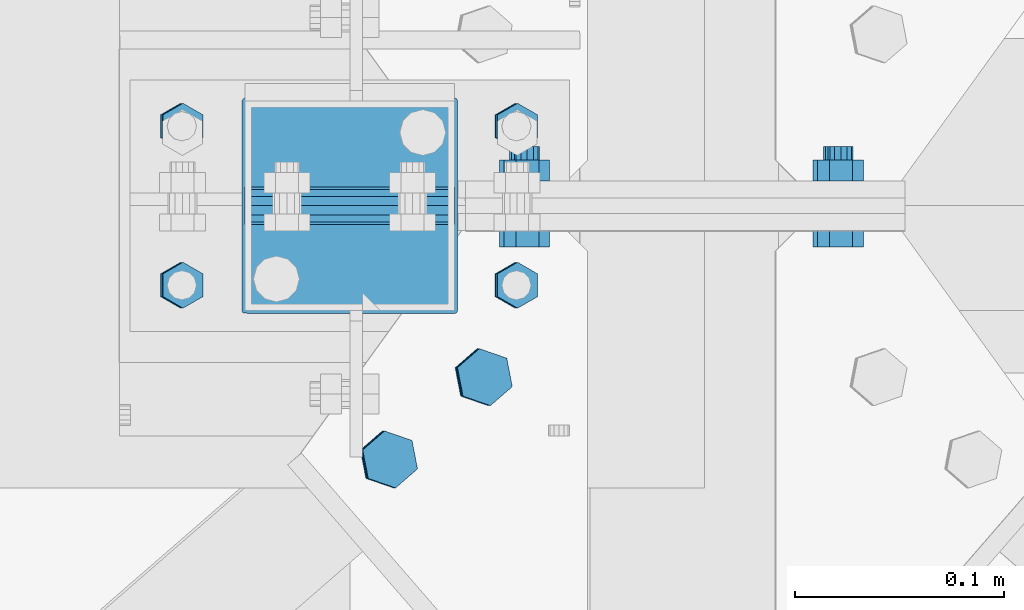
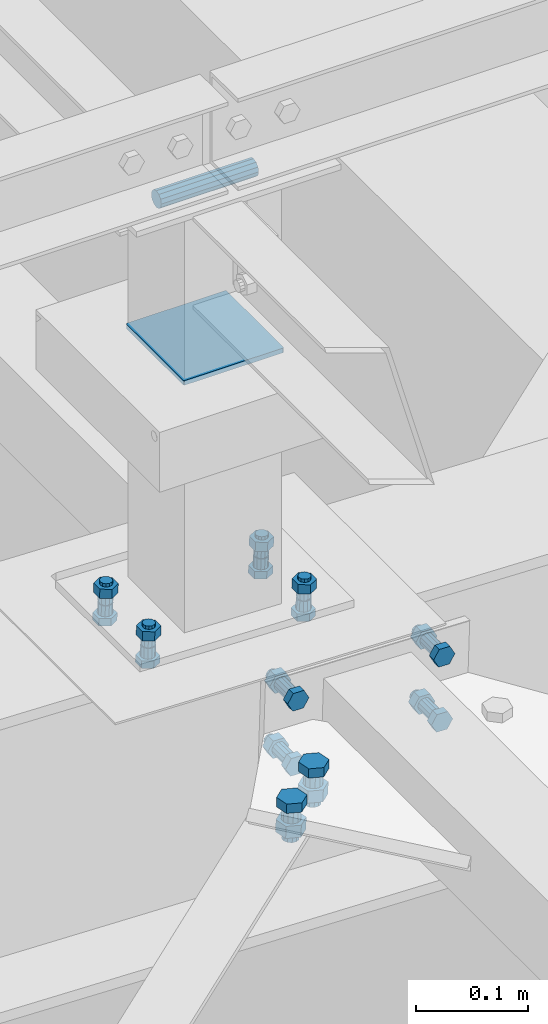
# One storey, part 243 of 3134: 5 mechanical fasteners, 3 elements without a shape of their own.
"""IFC2X3 building model written with IfcOpenShell, lengths in millimetres."""

from ifc_helpers import new_model, si_unit, frame, origin_with_axes, place, context, subcontext, project, spatial, faceted_brep, source, transform, mapped, material, type_object, element, aggregate, save


model = new_model("IFC2X3")

# Units and contexts
model_context = context("Model", 3, precision=1e-05, world=origin_with_axes())
body_context = subcontext(model_context, "Body", "Model", "MODEL_VIEW")
ifc_project = project(units=[si_unit("LENGTHUNIT", "METRE", prefix="MILLI"), si_unit("AREAUNIT", "SQUARE_METRE"), si_unit("VOLUMEUNIT", "CUBIC_METRE"), si_unit("MASSUNIT", "GRAM", prefix="KILO"), si_unit("TIMEUNIT", "SECOND"), si_unit("PLANEANGLEUNIT", "RADIAN"), si_unit("SOLIDANGLEUNIT", "STERADIAN"), si_unit("THERMODYNAMICTEMPERATUREUNIT", "DEGREE_CELSIUS"), si_unit("LUMINOUSINTENSITYUNIT", "LUMEN")], contexts=[model_context])

# Site, building, storey
site_placement = place(None, origin_with_axes())
site = spatial("IfcSite", under=ifc_project, at=site_placement, CompositionType="ELEMENT")
building_placement = place(site_placement, origin_with_axes())
building = spatial("IfcBuilding", under=site, at=building_placement, Name="Undefined", CompositionType="ELEMENT")
storey_placement = place(building_placement, origin_with_axes())
storey = spatial("IfcBuildingStorey", under=building, at=storey_placement, Name="Undefined", CompositionType="ELEMENT", Elevation=0.0)

# Assembly, mechanical fasteners
assembly_1_placement = place(storey_placement, origin_with_axes())
assembly_1 = element("IfcElementAssembly", 1, at=assembly_1_placement, inside=storey, AssemblyPlace="NOTDEFINED", PredefinedType="RIGID_FRAME")
ifc_material_1 = material(Name="8.8")
mechanical_fastener_type = type_object("IfcMechanicalFastenerType", Name="Bolt assembly")
shared_shape_1 = source(origin_with_axes(), body_context, "Body", "Brep", [
    faceted_brep([(9.0, -50.0, 0.0), (7.79422863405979, -50.0, 4.50000000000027), (4.49999999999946, -50.0, 7.79422863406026), (-9.3270238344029e-13, -50.0, 9.0), (-4.50000000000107, -50.0, 7.79422863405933), (-7.79422863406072, -50.0, 4.49999999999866), (-9.0, -50.0, -1.86540476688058e-12), (-7.79422863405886, -50.0, -4.50000000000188), (-4.49999999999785, -50.0, -7.79422863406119), (2.78811514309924e-12, -50.0, -9.0), (4.50000000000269, -50.0, -7.7942286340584), (7.79422863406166, -50.0, -4.49999999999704), (7.79422863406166, 50.1, -4.49999999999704), (4.50000000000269, 50.1, -7.7942286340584), (2.78811514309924e-12, 50.1, -9.0), (-4.49999999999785, 50.1, -7.79422863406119), (-7.79422863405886, 50.1, -4.50000000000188), (-9.0, 50.1, -1.86540476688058e-12), (-7.79422863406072, 50.1, 4.49999999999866), (-4.50000000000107, 50.1, 7.79422863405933), (-9.3270238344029e-13, 50.1, 9.0), (4.49999999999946, 50.1, 7.79422863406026), (7.79422863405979, 50.1, 4.50000000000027), (9.0, 50.1, 0.0)], [[[0, 1, 2, 3, 4, 5, 6, 7, 8, 9, 10, 11]], [[12, 13, 14, 15, 16, 17, 18, 19, 20, 21, 22, 23]], [[0, 23, 22, 1]], [[1, 22, 21, 2]], [[2, 21, 20, 3]], [[3, 20, 19, 4]], [[4, 19, 18, 5]], [[5, 18, 17, 6]], [[6, 17, 16, 7]], [[7, 16, 15, 8]], [[8, 15, 14, 9]], [[9, 14, 13, 10]], [[10, 13, 12, 11]], [[11, 12, 23, 0]]]),
])
mechanical_fastener_1_placement = place(assembly_1_placement, frame((26019.0, 60985.0, 10845.0), z_axis=(0.0, 1.0, 0.0), x_axis=(0.0, 0.0, 1.0)))
mechanical_fastener_1 = element("IfcMechanicalFastener", 2, at=mechanical_fastener_1_placement, type_object=mechanical_fastener_type, material=ifc_material_1, Name="Bolt assembly", NominalDiameter=16.0, NominalLength=100.0, context=body_context, shape_type="MappedRepresentation", body=[
    mapped(shared_shape_1, transform((0.0, 0.0, 0.0))),
])
ifc_material_2 = material(Name="6.8")
shared_shape_2 = source(origin_with_axes(), body_context, "Body", "Brep", [
    faceted_brep([(51.5, 1.36424205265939e-12, 50.0), (51.3858192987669, 1.36424205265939e-12, 50.5740251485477), (51.0606601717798, 1.36424205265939e-12, 51.0606601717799), (50.5740251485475, 1.36424205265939e-12, 51.385819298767), (-50.0000000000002, 1.36424205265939e-12, 51.5), (-50.7500000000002, 1.36424205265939e-12, 51.2990381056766), (-51.2990381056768, 1.36424205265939e-12, 50.7499999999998), (-51.5, 1.36424205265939e-12, 49.9999999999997), (-51.5, 1.36424205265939e-12, -50.0000000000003), (-51.2990381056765, 1.36424205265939e-12, -50.7500000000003), (-50.7499999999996, 1.36424205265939e-12, -51.2990381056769), (-49.9999999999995, 1.36424205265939e-12, -51.5), (50.0000000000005, 1.36424205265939e-12, -51.5), (50.7500000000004, 1.36424205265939e-12, -51.2990381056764), (51.2990381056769, 1.36424205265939e-12, -50.7499999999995), (51.5, 1.36424205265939e-12, -49.9999999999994), (51.5, 5.10000000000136, -49.9999999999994), (51.2990381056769, 5.10000000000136, -50.7499999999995), (50.7500000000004, 5.10000000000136, -51.2990381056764), (50.0000000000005, 5.10000000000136, -51.5), (-49.9999999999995, 5.10000000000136, -51.5), (-50.7499999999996, 5.10000000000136, -51.2990381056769), (-51.2990381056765, 5.10000000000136, -50.7500000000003), (-51.5, 5.10000000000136, -50.0000000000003), (-51.5, 5.10000000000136, 49.9999999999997), (-51.2990381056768, 5.10000000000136, 50.7499999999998), (-50.7500000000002, 5.10000000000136, 51.2990381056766), (-50.0000000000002, 5.10000000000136, 51.5), (50.5740251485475, 5.10000000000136, 51.385819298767), (51.0606601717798, 5.10000000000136, 51.0606601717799), (51.3858192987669, 5.10000000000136, 50.5740251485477), (51.5, 5.10000000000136, 50.0)], [[[0, 1, 2, 3, 4, 5, 6, 7, 8, 9, 10, 11, 12, 13, 14, 15]], [[16, 17, 18, 19, 20, 21, 22, 23, 24, 25, 26, 27, 28, 29, 30, 31]], [[0, 31, 30, 1]], [[1, 30, 29, 2]], [[2, 29, 28, 3]], [[3, 28, 27, 4]], [[4, 27, 26, 5]], [[5, 26, 25, 6]], [[6, 25, 24, 7]], [[7, 24, 23, 8]], [[8, 23, 22, 9]], [[9, 22, 21, 10]], [[10, 21, 20, 11]], [[11, 20, 19, 12]], [[12, 19, 18, 13]], [[13, 18, 17, 14]], [[14, 17, 16, 15]], [[15, 16, 31, 0]]]),
])
mechanical_fastener_2_placement = place(assembly_1_placement, frame((26019.0, 60985.0, 10679.21), z_axis=(0.0, -1.0, 0.0), x_axis=(-1.0, 0.0, 0.0)))
mechanical_fastener_2 = element("IfcMechanicalFastener", 3, at=mechanical_fastener_2_placement, type_object=mechanical_fastener_type, material=ifc_material_2, Name="Bolt assembly", NominalDiameter=10.0, NominalLength=5.0, context=body_context, shape_type="MappedRepresentation", body=[
    mapped(shared_shape_2, transform((0.0, 0.0, 0.0))),
])
aggregate(assembly_1, [mechanical_fastener_1, mechanical_fastener_2])

assembly_2_placement = place(storey_placement, origin_with_axes())
assembly_2 = element("IfcElementAssembly", 4, at=assembly_2_placement, inside=storey, AssemblyPlace="NOTDEFINED", PredefinedType="RIGID_FRAME")
shared_shape_3 = source(origin_with_axes(), body_context, "Body", "Brep", [
    faceted_brep([(13.856406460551, -14.0, 0.0), (6.92820323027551, -14.0, 12.0), (-6.92820323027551, -14.0, 12.0), (-13.856406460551, -14.0, 1.69692038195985e-15), (-6.92820323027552, -14.0, -12.0), (6.9282032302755, -14.0, -12.0), (6.9282032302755, -4.00000145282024, -12.0), (-6.92820323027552, -4.00000145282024, -12.0), (-13.856406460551, -4.00000145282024, 1.69692038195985e-15), (-6.92820323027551, -4.00000145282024, 12.0), (6.92820323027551, -4.00000145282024, 12.0), (13.856406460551, -4.00000145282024, 0.0), (8.0, -4.00000145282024, 0.0), (6.92820323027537, -4.00000145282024, 4.00000000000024), (3.99999999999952, -4.00000145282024, 6.92820323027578), (-8.29068785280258e-13, -4.00000145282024, 8.0), (-4.00000000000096, -4.00000145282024, 6.92820323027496), (-6.9282032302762, -4.00000145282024, 3.99999999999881), (-8.0, -4.00000145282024, -1.65813757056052e-12), (-6.92820323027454, -4.00000145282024, -4.00000000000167), (-3.99999999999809, -4.00000145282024, -6.92820323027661), (2.47832457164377e-12, -4.00000145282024, -8.0), (4.00000000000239, -4.00000145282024, -6.92820323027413), (6.92820323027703, -4.00000145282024, -3.99999999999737), (6.92820323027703, 31.0, -3.99999999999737), (4.00000000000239, 31.0, -6.92820323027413), (2.47832457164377e-12, 31.0, -8.0), (-3.99999999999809, 31.0, -6.92820323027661), (-6.92820323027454, 31.0, -4.00000000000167), (-8.0, 31.0, -1.65813757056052e-12), (-6.9282032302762, 31.0, 3.99999999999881), (-4.00000000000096, 31.0, 6.92820323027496), (-8.29068785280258e-13, 31.0, 8.0), (3.99999999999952, 31.0, 6.92820323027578), (6.92820323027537, 31.0, 4.00000000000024), (8.0, 31.0, 0.0), (13.856406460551, 9.99962794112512, 0.0), (6.92820323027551, 9.99962794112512, 12.0), (-6.92820323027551, 9.99962794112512, 12.0), (-13.856406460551, 9.99962794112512, 1.69692038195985e-15), (-6.92820323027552, 9.99962794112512, -12.0), (6.9282032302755, 9.99962794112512, -12.0), (6.9282032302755, 22.9996279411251, -12.0), (-6.92820323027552, 22.9996279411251, -12.0), (-13.856406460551, 22.9996279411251, 1.69692038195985e-15), (-6.92820323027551, 22.9996279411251, 12.0), (6.92820323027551, 22.9996279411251, 12.0), (13.856406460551, 22.9996279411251, 0.0)], [[[0, 1, 2, 3, 4, 5]], [[6, 7, 8, 9, 10, 11]], [[0, 11, 10, 1]], [[1, 10, 9, 2]], [[2, 9, 8, 3]], [[3, 8, 7, 4]], [[4, 7, 6, 5]], [[5, 6, 11, 0]], [[12, 13, 14, 15, 16, 17, 18, 19, 20, 21, 22, 23]], [[24, 25, 26, 27, 28, 29, 30, 31, 32, 33, 34, 35]], [[12, 35, 34, 13]], [[13, 34, 33, 14]], [[14, 33, 32, 15]], [[15, 32, 31, 16]], [[16, 31, 30, 17]], [[17, 30, 29, 18]], [[18, 29, 28, 19]], [[19, 28, 27, 20]], [[20, 27, 26, 21]], [[21, 26, 25, 22]], [[22, 25, 24, 23]], [[23, 24, 35, 12]], [[36, 37, 38, 39, 40, 41]], [[42, 43, 44, 45, 46, 47]], [[36, 47, 46, 37]], [[37, 46, 45, 38]], [[38, 45, 44, 39]], [[39, 44, 43, 40]], [[40, 43, 42, 41]], [[41, 42, 47, 36]]]),
    faceted_brep([(9.0, 3.89962794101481, 0.0), (7.79422863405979, 3.89962794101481, 4.50000000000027), (4.49999999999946, 3.89962794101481, 7.79422863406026), (-9.3270238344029e-13, 3.89962794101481, 9.0), (-4.50000000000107, 3.89962794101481, 7.79422863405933), (-7.79422863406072, 3.89962794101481, 4.49999999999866), (-9.0, 3.89962794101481, -1.86540476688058e-12), (-7.79422863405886, 3.89962794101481, -4.50000000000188), (-4.49999999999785, 3.89962794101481, -7.79422863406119), (2.78811514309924e-12, 3.89962794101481, -9.0), (4.50000000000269, 3.89962794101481, -7.7942286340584), (7.79422863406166, 3.89962794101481, -4.49999999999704), (7.79422863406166, 9.99962794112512, -4.49999999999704), (4.50000000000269, 9.99962794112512, -7.7942286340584), (2.78811514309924e-12, 9.99962794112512, -9.0), (-4.49999999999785, 9.99962794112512, -7.79422863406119), (-7.79422863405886, 9.99962794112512, -4.50000000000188), (-9.0, 9.99962794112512, -1.86540476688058e-12), (-7.79422863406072, 9.99962794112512, 4.49999999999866), (-4.50000000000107, 9.99962794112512, 7.79422863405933), (-9.3270238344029e-13, 9.99962794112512, 9.0), (4.49999999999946, 9.99962794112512, 7.79422863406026), (7.79422863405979, 9.99962794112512, 4.50000000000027), (9.0, 9.99962794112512, 0.0), (9.0, -3.9, 0.0), (7.79422863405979, -3.9, 4.50000000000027), (4.49999999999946, -3.9, 7.79422863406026), (-9.3270238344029e-13, -3.9, 9.0), (-4.50000000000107, -3.9, 7.79422863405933), (-7.79422863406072, -3.9, 4.49999999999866), (-9.0, -3.9, -1.86540476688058e-12), (-7.79422863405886, -3.9, -4.50000000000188), (-4.49999999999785, -3.9, -7.79422863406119), (2.78811514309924e-12, -3.9, -9.0), (4.50000000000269, -3.9, -7.7942286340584), (7.79422863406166, -3.9, -4.49999999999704), (7.79422863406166, 4.09999854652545, -4.49999999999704), (4.50000000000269, 4.09999854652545, -7.7942286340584), (2.78811514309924e-12, 4.09999854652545, -9.0), (-4.49999999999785, 4.09999854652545, -7.79422863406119), (-7.79422863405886, 4.09999854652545, -4.50000000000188), (-9.0, 4.09999854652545, -1.86540476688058e-12), (-7.79422863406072, 4.09999854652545, 4.49999999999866), (-4.50000000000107, 4.09999854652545, 7.79422863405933), (-9.3270238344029e-13, 4.09999854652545, 9.0), (4.49999999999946, 4.09999854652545, 7.79422863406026), (7.79422863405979, 4.09999854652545, 4.50000000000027), (9.0, 4.09999854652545, 0.0)], [[[0, 1, 2, 3, 4, 5, 6, 7, 8, 9, 10, 11]], [[12, 13, 14, 15, 16, 17, 18, 19, 20, 21, 22, 23]], [[0, 23, 22, 1]], [[1, 22, 21, 2]], [[2, 21, 20, 3]], [[3, 20, 19, 4]], [[4, 19, 18, 5]], [[5, 18, 17, 6]], [[6, 17, 16, 7]], [[7, 16, 15, 8]], [[8, 15, 14, 9]], [[9, 14, 13, 10]], [[10, 13, 12, 11]], [[11, 12, 23, 0]], [[24, 25, 26, 27, 28, 29, 30, 31, 32, 33, 34, 35]], [[36, 37, 38, 39, 40, 41, 42, 43, 44, 45, 46, 47]], [[24, 47, 46, 25]], [[25, 46, 45, 26]], [[26, 45, 44, 27]], [[27, 44, 43, 28]], [[28, 43, 42, 29]], [[29, 42, 41, 30]], [[30, 41, 40, 31]], [[31, 40, 39, 32]], [[32, 39, 38, 33]], [[33, 38, 37, 34]], [[34, 37, 36, 35]], [[35, 36, 47, 24]]]),
])
mechanical_fastener_3_placement = place(assembly_2_placement, frame((26083.1409918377, 60903.0600296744, 10230.4557677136), z_axis=(0.655203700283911, -0.755179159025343, -0.0203113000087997), x_axis=(-0.754816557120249, -0.65551844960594, 0.0233993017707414)))
mechanical_fastener_3 = element("IfcMechanicalFastener", 5, at=mechanical_fastener_3_placement, type_object=mechanical_fastener_type, material=ifc_material_1, Name="Bolt assembly", NominalDiameter=16.0, NominalLength=35.0, context=body_context, shape_type="MappedRepresentation", body=[
    mapped(shared_shape_3, transform((0.0, 0.0, 0.0))),
    mapped(shared_shape_3, transform((59.9999999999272, 0.0, 5.40239852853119e-10))),
])
shared_shape_4 = source(origin_with_axes(), body_context, "Body", "Brep", [
    faceted_brep([(10.9696551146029, -19.75, 0.0), (5.48482755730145, -19.75, 9.5), (-5.48482755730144, -19.75, 9.5), (-10.9696551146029, -19.75, 1.34339530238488e-15), (-5.48482755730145, -19.75, -9.5), (5.48482755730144, -19.75, -9.50000000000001), (5.48482755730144, -11.75, -9.50000000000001), (-5.48482755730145, -11.75, -9.5), (-10.9696551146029, -11.75, 1.34339530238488e-15), (-5.48482755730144, -11.75, 9.5), (5.48482755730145, -11.75, 9.5), (10.9696551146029, -11.75, 0.0), (6.0, -11.75, 0.0), (5.19615242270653, -11.75, 3.00000000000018), (2.99999999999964, -11.75, 5.19615242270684), (-6.21801588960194e-13, -11.75, 6.0), (-3.00000000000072, -11.75, 5.19615242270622), (-5.19615242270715, -11.75, 2.9999999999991), (-6.0, -11.75, -1.24360317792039e-12), (-5.19615242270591, -11.75, -3.00000000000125), (-2.99999999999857, -11.75, -5.19615242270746), (1.85874342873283e-12, -11.75, -6.0), (3.00000000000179, -11.75, -5.1961524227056), (5.19615242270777, -11.75, -2.99999999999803), (5.19615242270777, 28.25, -2.99999999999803), (3.00000000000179, 28.25, -5.1961524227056), (1.85874342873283e-12, 28.25, -6.0), (-2.99999999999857, 28.25, -5.19615242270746), (-5.19615242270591, 28.25, -3.00000000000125), (-6.0, 28.25, -1.24360317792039e-12), (-5.19615242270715, 28.25, 2.9999999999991), (-3.00000000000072, 28.25, 5.19615242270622), (-6.21801588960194e-13, 28.25, 6.0), (2.99999999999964, 28.25, 5.19615242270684), (5.19615242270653, 28.25, 3.00000000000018), (6.0, 28.25, 0.0), (10.9696551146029, 11.75, 0.0), (5.48482755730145, 11.75, 9.5), (-5.48482755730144, 11.75, 9.5), (-10.9696551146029, 11.75, 1.34339530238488e-15), (-5.48482755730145, 11.75, -9.5), (5.48482755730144, 11.75, -9.50000000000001), (5.48482755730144, 21.75, -9.50000000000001), (-5.48482755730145, 21.75, -9.5), (-10.9696551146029, 21.75, 1.34339530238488e-15), (-5.48482755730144, 21.75, 9.5), (5.48482755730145, 21.75, 9.5), (10.9696551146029, 21.75, 0.0)], [[[0, 1, 2, 3, 4, 5]], [[6, 7, 8, 9, 10, 11]], [[0, 11, 10, 1]], [[1, 10, 9, 2]], [[2, 9, 8, 3]], [[3, 8, 7, 4]], [[4, 7, 6, 5]], [[5, 6, 11, 0]], [[12, 13, 14, 15, 16, 17, 18, 19, 20, 21, 22, 23]], [[24, 25, 26, 27, 28, 29, 30, 31, 32, 33, 34, 35]], [[12, 35, 34, 13]], [[13, 34, 33, 14]], [[14, 33, 32, 15]], [[15, 32, 31, 16]], [[16, 31, 30, 17]], [[17, 30, 29, 18]], [[18, 29, 28, 19]], [[19, 28, 27, 20]], [[20, 27, 26, 21]], [[21, 26, 25, 22]], [[22, 25, 24, 23]], [[23, 24, 35, 12]], [[36, 37, 38, 39, 40, 41]], [[42, 43, 44, 45, 46, 47]], [[36, 47, 46, 37]], [[37, 46, 45, 38]], [[38, 45, 44, 39]], [[39, 44, 43, 40]], [[40, 43, 42, 41]], [[41, 42, 47, 36]]]),
    faceted_brep([(7.0, -3.75, 0.0), (6.06217782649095, -3.75, 3.50000000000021), (3.49999999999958, -3.75, 6.06217782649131), (-7.25435187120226e-13, -3.75, 7.0), (-3.50000000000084, -3.75, 6.06217782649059), (-6.06217782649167, -3.75, 3.49999999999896), (-7.0, -3.75, -1.45087037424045e-12), (-6.06217782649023, -3.75, -3.50000000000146), (-3.49999999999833, -3.75, -6.06217782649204), (2.1685340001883e-12, -3.75, -7.0), (3.50000000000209, -3.75, -6.06217782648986), (6.0621778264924, -3.75, -3.4999999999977), (6.0621778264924, 3.75, -3.4999999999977), (3.50000000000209, 3.75, -6.06217782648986), (2.1685340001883e-12, 3.75, -7.0), (-3.49999999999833, 3.75, -6.06217782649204), (-6.06217782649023, 3.75, -3.50000000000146), (-7.0, 3.75, -1.45087037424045e-12), (-6.06217782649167, 3.75, 3.49999999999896), (-3.50000000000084, 3.75, 6.06217782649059), (-7.25435187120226e-13, 3.75, 7.0), (3.49999999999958, 3.75, 6.06217782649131), (6.06217782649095, 3.75, 3.50000000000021), (7.0, 3.75, 0.0), (7.0, -11.65, 0.0), (6.06217782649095, -11.65, 3.50000000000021), (3.49999999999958, -11.65, 6.06217782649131), (-7.25435187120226e-13, -11.65, 7.0), (-3.50000000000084, -11.65, 6.06217782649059), (-6.06217782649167, -11.65, 3.49999999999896), (-7.0, -11.65, -1.45087037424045e-12), (-6.06217782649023, -11.65, -3.50000000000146), (-3.49999999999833, -11.65, -6.06217782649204), (2.1685340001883e-12, -11.65, -7.0), (3.50000000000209, -11.65, -6.06217782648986), (6.0621778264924, -11.65, -3.4999999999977), (6.0621778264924, -3.65, -3.4999999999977), (3.50000000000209, -3.65, -6.06217782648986), (2.1685340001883e-12, -3.65, -7.0), (-3.49999999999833, -3.65, -6.06217782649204), (-6.06217782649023, -3.65, -3.50000000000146), (-7.0, -3.65, -1.45087037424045e-12), (-6.06217782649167, -3.65, 3.49999999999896), (-3.50000000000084, -3.65, 6.06217782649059), (-7.25435187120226e-13, -3.65, 7.0), (3.49999999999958, -3.65, 6.06217782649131), (6.06217782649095, -3.65, 3.50000000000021), (7.0, -3.65, 0.0), (7.0, 3.65000002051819, 0.0), (6.06217782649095, 3.65000002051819, 3.50000000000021), (3.49999999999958, 3.65000002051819, 6.06217782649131), (-7.25435187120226e-13, 3.65000002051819, 7.0), (-3.50000000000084, 3.65000002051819, 6.06217782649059), (-6.06217782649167, 3.65000002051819, 3.49999999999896), (-7.0, 3.65000002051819, -1.45087037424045e-12), (-6.06217782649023, 3.65000002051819, -3.50000000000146), (-3.49999999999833, 3.65000002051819, -6.06217782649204), (2.1685340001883e-12, 3.65000002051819, -7.0), (3.50000000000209, 3.65000002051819, -6.06217782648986), (6.0621778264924, 3.65000002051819, -3.4999999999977), (6.0621778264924, 11.75, -3.4999999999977), (3.50000000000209, 11.75, -6.06217782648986), (2.1685340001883e-12, 11.75, -7.0), (-3.49999999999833, 11.75, -6.06217782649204), (-6.06217782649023, 11.75, -3.50000000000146), (-7.0, 11.75, -1.45087037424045e-12), (-6.06217782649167, 11.75, 3.49999999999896), (-3.50000000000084, 11.75, 6.06217782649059), (-7.25435187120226e-13, 11.75, 7.0), (3.49999999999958, 11.75, 6.06217782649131), (6.06217782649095, 11.75, 3.50000000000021), (7.0, 11.75, 0.0)], [[[0, 1, 2, 3, 4, 5, 6, 7, 8, 9, 10, 11]], [[12, 13, 14, 15, 16, 17, 18, 19, 20, 21, 22, 23]], [[0, 23, 22, 1]], [[1, 22, 21, 2]], [[2, 21, 20, 3]], [[3, 20, 19, 4]], [[4, 19, 18, 5]], [[5, 18, 17, 6]], [[6, 17, 16, 7]], [[7, 16, 15, 8]], [[8, 15, 14, 9]], [[9, 14, 13, 10]], [[10, 13, 12, 11]], [[11, 12, 23, 0]], [[24, 25, 26, 27, 28, 29, 30, 31, 32, 33, 34, 35]], [[36, 37, 38, 39, 40, 41, 42, 43, 44, 45, 46, 47]], [[24, 47, 46, 25]], [[25, 46, 45, 26]], [[26, 45, 44, 27]], [[27, 44, 43, 28]], [[28, 43, 42, 29]], [[29, 42, 41, 30]], [[30, 41, 40, 31]], [[31, 40, 39, 32]], [[32, 39, 38, 33]], [[33, 38, 37, 34]], [[34, 37, 36, 35]], [[35, 36, 47, 24]], [[48, 49, 50, 51, 52, 53, 54, 55, 56, 57, 58, 59]], [[60, 61, 62, 63, 64, 65, 66, 67, 68, 69, 70, 71]], [[48, 71, 70, 49]], [[49, 70, 69, 50]], [[50, 69, 68, 51]], [[51, 68, 67, 52]], [[52, 67, 66, 53]], [[53, 66, 65, 54]], [[54, 65, 64, 55]], [[55, 64, 63, 56]], [[56, 63, 62, 57]], [[57, 62, 61, 58]], [[58, 61, 60, 59]], [[59, 60, 71, 48]]]),
])
mechanical_fastener_4_placement = place(assembly_2_placement, frame((26102.5292494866, 60985.0, 10229.8547317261), z_axis=(0.0309851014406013, 0.0, 0.999519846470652), x_axis=(0.999519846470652, 0.0, -0.0309851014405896)))
mechanical_fastener_4 = element("IfcMechanicalFastener", 6, at=mechanical_fastener_4_placement, type_object=mechanical_fastener_type, material=ifc_material_1, Name="Bolt assembly", NominalDiameter=12.0, NominalLength=40.0, context=body_context, shape_type="MappedRepresentation", body=[
    mapped(shared_shape_4, transform((0.0, 0.0, -35.0))),
    mapped(shared_shape_4, transform((150.000000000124, 0.0, -35.0000000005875))),
    mapped(shared_shape_4, transform((0.0, 0.0, 35.0))),
    mapped(shared_shape_4, transform((150.000000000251, 0.0, 34.9999999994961))),
])
aggregate(assembly_2, [mechanical_fastener_3, mechanical_fastener_4])

# Assembly, mechanical fastener
assembly_3_placement = place(storey_placement, origin_with_axes())
assembly_3 = element("IfcElementAssembly", 7, at=assembly_3_placement, inside=storey, Name="IPE330", AssemblyPlace="NOTDEFINED", PredefinedType="RIGID_FRAME")
shared_shape_5 = source(origin_with_axes(), body_context, "Body", "Brep", [
    faceted_brep([(10.9696551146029, -6.49779207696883, 0.0), (5.48482755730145, -6.49779207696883, 9.5), (-5.48482755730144, -6.49779207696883, 9.5), (-10.9696551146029, -6.49779207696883, 1.34339530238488e-15), (-5.48482755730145, -6.49779207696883, -9.5), (5.48482755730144, -6.49779207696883, -9.50000000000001), (5.48482755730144, 1.50220792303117, -9.50000000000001), (-5.48482755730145, 1.50220792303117, -9.5), (-10.9696551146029, 1.50220792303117, 1.34339530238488e-15), (-5.48482755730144, 1.50220792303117, 9.5), (5.48482755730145, 1.50220792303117, 9.5), (10.9696551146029, 1.50220792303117, 0.0), (6.0, 1.50220792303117, 0.0), (5.19615242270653, 1.50220792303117, 3.00000000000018), (2.99999999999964, 1.50220792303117, 5.19615242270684), (-6.21801588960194e-13, 1.50220792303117, 6.0), (-3.00000000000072, 1.50220792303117, 5.19615242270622), (-5.19615242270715, 1.50220792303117, 2.9999999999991), (-6.0, 1.50220792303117, -1.24360317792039e-12), (-5.19615242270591, 1.50220792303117, -3.00000000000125), (-2.99999999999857, 1.50220792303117, -5.19615242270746), (1.85874342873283e-12, 1.50220792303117, -6.0), (3.00000000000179, 1.50220792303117, -5.1961524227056), (5.19615242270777, 1.50220792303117, -2.99999999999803), (5.19615242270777, 36.5022079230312, -2.99999999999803), (3.00000000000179, 36.5022079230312, -5.1961524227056), (1.85874342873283e-12, 36.5022079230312, -6.0), (-2.99999999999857, 36.5022079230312, -5.19615242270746), (-5.19615242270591, 36.5022079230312, -3.00000000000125), (-6.0, 36.5022079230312, -1.24360317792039e-12), (-5.19615242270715, 36.5022079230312, 2.9999999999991), (-3.00000000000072, 36.5022079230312, 5.19615242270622), (-6.21801588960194e-13, 36.5022079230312, 6.0), (2.99999999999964, 36.5022079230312, 5.19615242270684), (5.19615242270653, 36.5022079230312, 3.00000000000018), (6.0, 36.5022079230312, 0.0), (10.9696551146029, 23.0039050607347, 0.0), (5.48482755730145, 23.0039050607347, 9.5), (-5.48482755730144, 23.0039050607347, 9.5), (-10.9696551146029, 23.0039050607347, 1.34339530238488e-15), (-5.48482755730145, 23.0039050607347, -9.5), (5.48482755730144, 23.0039050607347, -9.50000000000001), (5.48482755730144, 33.0039050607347, -9.50000000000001), (-5.48482755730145, 33.0039050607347, -9.5), (-10.9696551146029, 33.0039050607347, 1.34339530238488e-15), (-5.48482755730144, 33.0039050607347, 9.5), (5.48482755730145, 33.0039050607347, 9.5), (10.9696551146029, 33.0039050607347, 0.0)], [[[0, 1, 2, 3, 4, 5]], [[6, 7, 8, 9, 10, 11]], [[0, 11, 10, 1]], [[1, 10, 9, 2]], [[2, 9, 8, 3]], [[3, 8, 7, 4]], [[4, 7, 6, 5]], [[5, 6, 11, 0]], [[12, 13, 14, 15, 16, 17, 18, 19, 20, 21, 22, 23]], [[24, 25, 26, 27, 28, 29, 30, 31, 32, 33, 34, 35]], [[12, 35, 34, 13]], [[13, 34, 33, 14]], [[14, 33, 32, 15]], [[15, 32, 31, 16]], [[16, 31, 30, 17]], [[17, 30, 29, 18]], [[18, 29, 28, 19]], [[19, 28, 27, 20]], [[20, 27, 26, 21]], [[21, 26, 25, 22]], [[22, 25, 24, 23]], [[23, 24, 35, 12]], [[36, 37, 38, 39, 40, 41]], [[42, 43, 44, 45, 46, 47]], [[36, 47, 46, 37]], [[37, 46, 45, 38]], [[38, 45, 44, 39]], [[39, 44, 43, 40]], [[40, 43, 42, 41]], [[41, 42, 47, 36]]]),
    faceted_brep([(7.0, 14.9039050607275, 0.0), (6.06217782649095, 14.9039050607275, 3.50000000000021), (3.49999999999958, 14.9039050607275, 6.06217782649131), (-7.25435187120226e-13, 14.9039050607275, 7.0), (-3.50000000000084, 14.9039050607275, 6.06217782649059), (-6.06217782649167, 14.9039050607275, 3.49999999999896), (-7.0, 14.9039050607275, -1.45087037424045e-12), (-6.06217782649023, 14.9039050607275, -3.50000000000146), (-3.49999999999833, 14.9039050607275, -6.06217782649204), (2.1685340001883e-12, 14.9039050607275, -7.0), (3.50000000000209, 14.9039050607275, -6.06217782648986), (6.0621778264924, 14.9039050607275, -3.4999999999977), (6.0621778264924, 23.0039050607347, -3.4999999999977), (3.50000000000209, 23.0039050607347, -6.06217782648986), (2.1685340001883e-12, 23.0039050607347, -7.0), (-3.49999999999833, 23.0039050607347, -6.06217782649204), (-6.06217782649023, 23.0039050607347, -3.50000000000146), (-7.0, 23.0039050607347, -1.45087037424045e-12), (-6.06217782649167, 23.0039050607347, 3.49999999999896), (-3.50000000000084, 23.0039050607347, 6.06217782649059), (-7.25435187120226e-13, 23.0039050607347, 7.0), (3.49999999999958, 23.0039050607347, 6.06217782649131), (6.06217782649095, 23.0039050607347, 3.50000000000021), (7.0, 23.0039050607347, 0.0), (7.0, 1.60220792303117, 0.0), (6.06217782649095, 1.60220792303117, 3.50000000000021), (3.49999999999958, 1.60220792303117, 6.06217782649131), (-7.25435187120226e-13, 1.60220792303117, 7.0), (-3.50000000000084, 1.60220792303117, 6.06217782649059), (-6.06217782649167, 1.60220792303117, 3.49999999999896), (-7.0, 1.60220792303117, -1.45087037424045e-12), (-6.06217782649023, 1.60220792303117, -3.50000000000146), (-3.49999999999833, 1.60220792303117, -6.06217782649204), (2.1685340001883e-12, 1.60220792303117, -7.0), (3.50000000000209, 1.60220792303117, -6.06217782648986), (6.0621778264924, 1.60220792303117, -3.4999999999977), (6.0621778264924, 13.1022079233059, -3.4999999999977), (3.50000000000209, 13.1022079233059, -6.06217782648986), (2.1685340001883e-12, 13.1022079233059, -7.0), (-3.49999999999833, 13.1022079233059, -6.06217782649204), (-6.06217782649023, 13.1022079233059, -3.50000000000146), (-7.0, 13.1022079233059, -1.45087037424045e-12), (-6.06217782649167, 13.1022079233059, 3.49999999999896), (-3.50000000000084, 13.1022079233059, 6.06217782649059), (-7.25435187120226e-13, 13.1022079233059, 7.0), (3.49999999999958, 13.1022079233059, 6.06217782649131), (6.06217782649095, 13.1022079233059, 3.50000000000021), (7.0, 13.1022079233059, 0.0)], [[[0, 1, 2, 3, 4, 5, 6, 7, 8, 9, 10, 11]], [[12, 13, 14, 15, 16, 17, 18, 19, 20, 21, 22, 23]], [[0, 23, 22, 1]], [[1, 22, 21, 2]], [[2, 21, 20, 3]], [[3, 20, 19, 4]], [[4, 19, 18, 5]], [[5, 18, 17, 6]], [[6, 17, 16, 7]], [[7, 16, 15, 8]], [[8, 15, 14, 9]], [[9, 14, 13, 10]], [[10, 13, 12, 11]], [[11, 12, 23, 0]], [[24, 25, 26, 27, 28, 29, 30, 31, 32, 33, 34, 35]], [[36, 37, 38, 39, 40, 41, 42, 43, 44, 45, 46, 47]], [[24, 47, 46, 25]], [[25, 46, 45, 26]], [[26, 45, 44, 27]], [[27, 44, 43, 28]], [[28, 43, 42, 29]], [[29, 42, 41, 30]], [[30, 41, 40, 31]], [[31, 40, 39, 32]], [[32, 39, 38, 33]], [[33, 38, 37, 34]], [[34, 37, 36, 35]], [[35, 36, 47, 24]]]),
])
mechanical_fastener_5_placement = place(assembly_3_placement, frame((26018.2251187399, 61023.0, 10379.5372055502), z_axis=(-0.99951962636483, 0.0, 0.0309922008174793), x_axis=(0.0, -1.0, 0.0)))
mechanical_fastener_5 = element("IfcMechanicalFastener", 8, at=mechanical_fastener_5_placement, type_object=mechanical_fastener_type, material=ifc_material_1, Name="Bolt assembly", NominalDiameter=12.0, NominalLength=35.0, context=body_context, shape_type="MappedRepresentation", body=[
    mapped(shared_shape_5, transform((0.0, -5.32963895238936e-10, -79.9999999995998))),
    mapped(shared_shape_5, transform((76.0, -5.32963895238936e-10, -79.9999999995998))),
    mapped(shared_shape_5, transform((0.0, 5.3114490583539e-10, 79.9999999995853))),
    mapped(shared_shape_5, transform((76.0, 5.3114490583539e-10, 79.9999999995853))),
])
aggregate(assembly_3, [mechanical_fastener_5])

save(model, "model.ifc")
